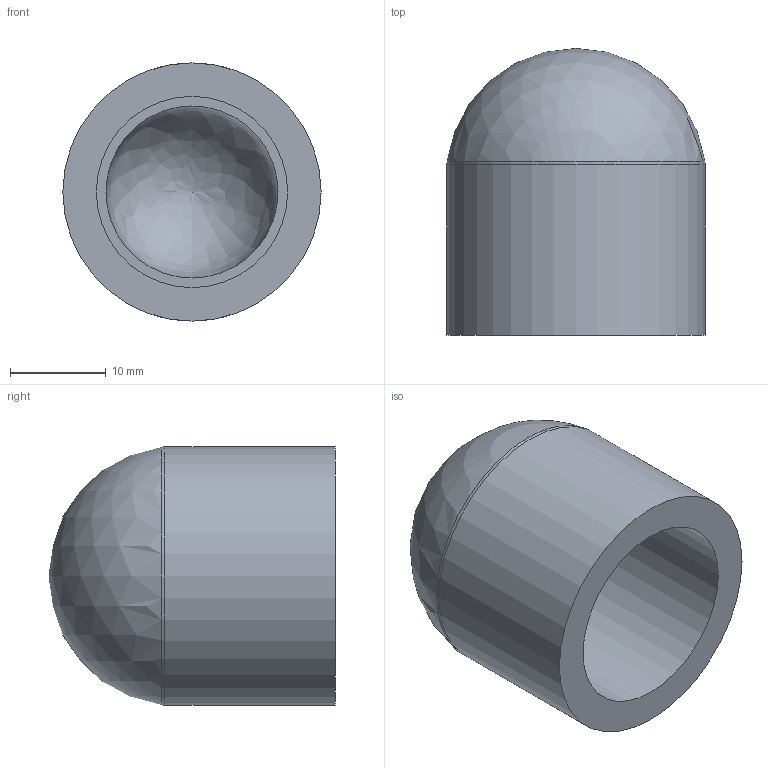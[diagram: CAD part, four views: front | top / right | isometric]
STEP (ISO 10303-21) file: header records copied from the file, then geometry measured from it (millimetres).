
FILE_DESCRIPTION(/* description */ ('PVC calotta incollaggio metrico'),/* implementation_level */ '2;1');
FILE_NAME(/* name */ 'C:\Users\POLYPIPE\Desktop\DATASET INVENTOR\LIBRERIA EFFAST\RACCORDI 3DxWEB\RDR\3D_RDRCAD\3D_RDRCAD0200.stp',/* time_stamp */ '2018-01-19T14:05:40+01:00',/* author */ ('POLYPIPE'),/* organization */ ('Polypipe Italia'),/* preprocessor_version */ 'ST-DEVELOPER v16.1',/* originating_system */ 'Autodesk Inventor 2016',/* authorisation */ '');
FILE_SCHEMA (('CONFIG_CONTROL_DESIGN'));
Length unit declared in the file: millimetre
Products named in the file (1): 3D_RDRCAD
Bounding box: 27 x 30 x 27 mm (x, y, z)
Volume: 7860.8 mm3; surface area: 4436.4 mm2
Topology: 1 solids, 1 shells, 7 faces, 12 edges, 8 vertices
Faces by surface type: cylinder 2, plane 2, torus 1, sphere 1, bspline 1
Full cylindrical faces by diameter (mm): 20 x1, 27 x1
Entity records: 198 total; most frequent: CARTESIAN_POINT 52, DIRECTION 28, ORIENTED_EDGE 16, AXIS2_PLACEMENT_3D 14, EDGE_LOOP 12, VERTEX_POINT 8, EDGE_CURVE 8, FACE_OUTER_BOUND 7
